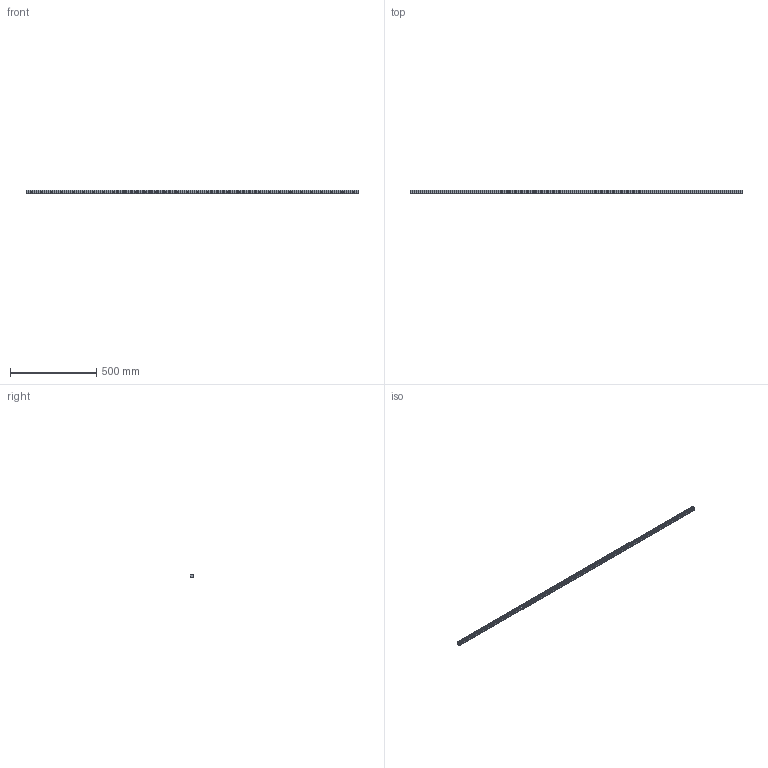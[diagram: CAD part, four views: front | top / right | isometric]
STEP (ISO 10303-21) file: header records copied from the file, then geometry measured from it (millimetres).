
FILE_DESCRIPTION (( 'STEP AP203' ), '1' );
FILE_NAME ('L1018.20R-1920.step', '2023-08-06T09:10:30', ( '' ), ( '' ), 'SwSTEP 2.0', 'SolidWorks 2019', '' );
FILE_SCHEMA (( 'CONFIG_CONTROL_DESIGN' ));
Length unit declared in the file: millimetre
Products named in the file (1): L1018.20R-1920
Bounding box: 1920 x 19.3 x 20 mm (x, y, z)
Volume: 608886.3 mm3; surface area: 162680.7 mm2
Topology: 1 solids, 1 shells, 317 faces, 721 edges, 406 vertices
Faces by surface type: cylinder 131, cone 128, plane 58
Entity records: 8486 total; most frequent: DIRECTION 1619, CARTESIAN_POINT 1381, ORIENTED_EDGE 1314, EDGE_CURVE 657, AXIS2_PLACEMENT_3D 644, VERTEX_POINT 406, EDGE_LOOP 381, LINE 331
